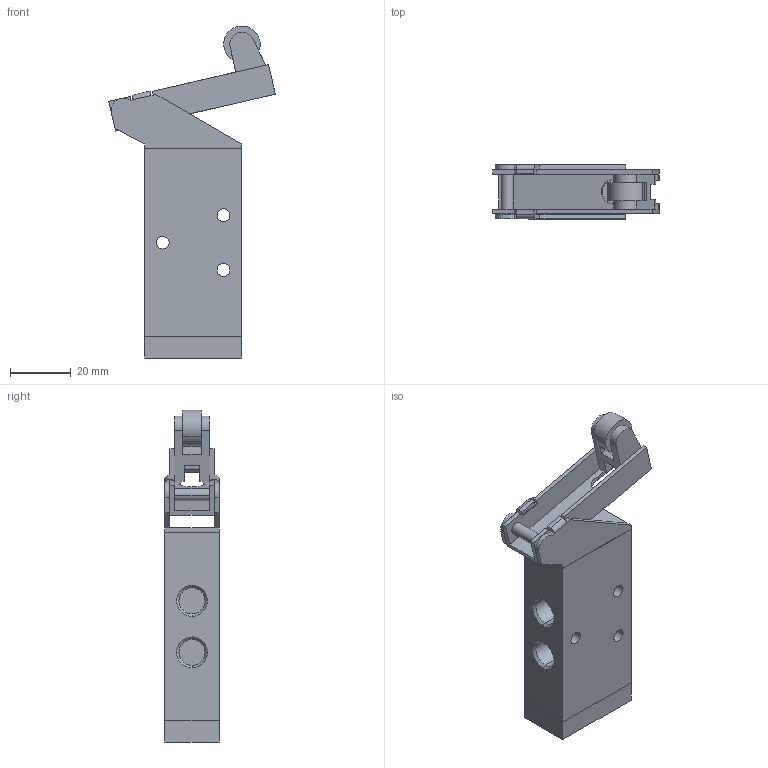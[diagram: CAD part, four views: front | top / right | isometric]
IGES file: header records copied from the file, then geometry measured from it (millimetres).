
Global section: file name: No Iges File Name specified; native system: AutoDesk Inventor R11.0; preprocessor: AutoDesk Inventor Iges Exporter R11.0; author: No Author specified; organization: No Organization specified; date: 20061219.114130; units: millimetre
Bounding box: 54.87 x 18 x 109.34 mm (x, y, z)
Volume: 43051.8 mm3; surface area: 17540.5 mm2
Topology: 3 solids, 3 shells, 138 faces, 342 edges, 216 vertices
Faces by surface type: plane 80, bspline 37, cylinder 14, revolution 7
